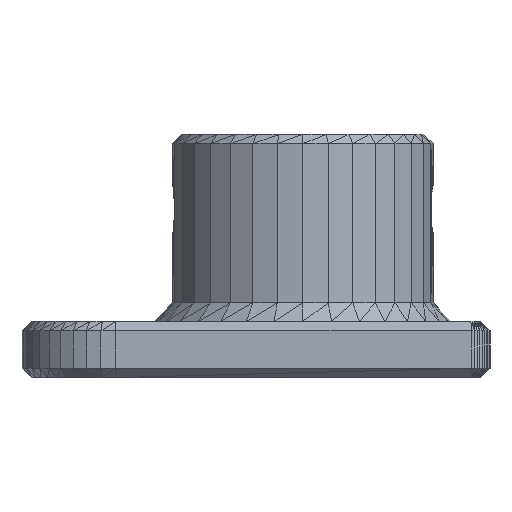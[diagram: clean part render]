
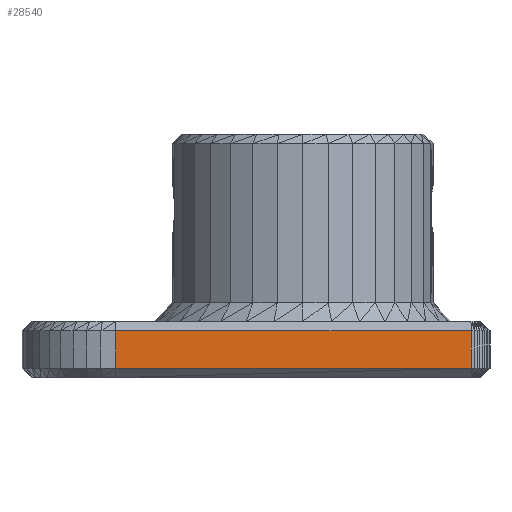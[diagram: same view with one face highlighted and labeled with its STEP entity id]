
A CAD part, front view. The second image highlights one B-rep face of the part: STEP entity #28540.
In plain terms, the highlighted planar face has unit normal (0, -1, 0).
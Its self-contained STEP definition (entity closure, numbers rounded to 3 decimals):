
#4961 = PLANE('',#4962);
#4962 = AXIS2_PLACEMENT_3D('',#4963,#4964,#4965);
#4963 = CARTESIAN_POINT('',(2.169,-9.878,
    2.627));
#4964 = DIRECTION('',(0.,-0.707,0.707));
#4965 = DIRECTION('',(0.,0.707,0.707));
#28328 = PLANE('',#28329);
#28329 = AXIS2_PLACEMENT_3D('',#28330,#28331,#28332);
#28330 = CARTESIAN_POINT('',(-8.055,-9.962,
    1.344));
#28331 = DIRECTION('',(-0.078,-0.997,-0.));
#28332 = DIRECTION('',(-0.997,0.078,0.));
#28415 = VERTEX_POINT('',#28416);
#28416 = CARTESIAN_POINT('',(-7.505,-10.005,
    0.507));
#28442 = EDGE_CURVE('',#28443,#28415,#28445,.T.);
#28443 = VERTEX_POINT('',#28444);
#28444 = CARTESIAN_POINT('',(-7.505,-10.005,
    2.5));
#28445 = SURFACE_CURVE('',#28446,(#28450,#28457),.PCURVE_S1.);
#28446 = LINE('',#28447,#28448);
#28447 = CARTESIAN_POINT('',(-7.505,-10.005,
    2.5));
#28448 = VECTOR('',#28449,1.);
#28449 = DIRECTION('',(0.,0.,-1.));
#28450 = PCURVE('',#28328,#28451);
#28451 = DEFINITIONAL_REPRESENTATION('',(#28452),#28456);
#28452 = LINE('',#28453,#28454);
#28453 = CARTESIAN_POINT('',(-0.551,-1.156));
#28454 = VECTOR('',#28455,1.);
#28455 = DIRECTION('',(0.,1.));
#28456 = ( GEOMETRIC_REPRESENTATION_CONTEXT(2) 
PARAMETRIC_REPRESENTATION_CONTEXT() REPRESENTATION_CONTEXT('2D SPACE',''
  ) );
#28457 = PCURVE('',#28458,#28463);
#28458 = PLANE('',#28459);
#28459 = AXIS2_PLACEMENT_3D('',#28460,#28461,#28462);
#28460 = CARTESIAN_POINT('',(1.528,-10.005,
    1.976));
#28461 = DIRECTION('',(-0.,-1.,-0.));
#28462 = DIRECTION('',(0.,0.,-1.));
#28463 = DEFINITIONAL_REPRESENTATION('',(#28464),#28468);
#28464 = LINE('',#28465,#28466);
#28465 = CARTESIAN_POINT('',(-0.524,-9.033));
#28466 = VECTOR('',#28467,1.);
#28467 = DIRECTION('',(1.,0.));
#28468 = ( GEOMETRIC_REPRESENTATION_CONTEXT(2) 
PARAMETRIC_REPRESENTATION_CONTEXT() REPRESENTATION_CONTEXT('2D SPACE',''
  ) );
#28540 = ADVANCED_FACE('',(#28541),#28458,.T.);
#28541 = FACE_BOUND('',#28542,.T.);
#28542 = EDGE_LOOP('',(#28543,#28566,#28567,#28595));
#28543 = ORIENTED_EDGE('',*,*,#28544,.F.);
#28544 = EDGE_CURVE('',#28443,#28545,#28547,.T.);
#28545 = VERTEX_POINT('',#28546);
#28546 = CARTESIAN_POINT('',(11.505,-10.005,
    2.5));
#28547 = SURFACE_CURVE('',#28548,(#28552,#28559),.PCURVE_S1.);
#28548 = LINE('',#28549,#28550);
#28549 = CARTESIAN_POINT('',(-7.505,-10.005,
    2.5));
#28550 = VECTOR('',#28551,1.);
#28551 = DIRECTION('',(1.,0.,0.));
#28552 = PCURVE('',#28458,#28553);
#28553 = DEFINITIONAL_REPRESENTATION('',(#28554),#28558);
#28554 = LINE('',#28555,#28556);
#28555 = CARTESIAN_POINT('',(-0.524,-9.033));
#28556 = VECTOR('',#28557,1.);
#28557 = DIRECTION('',(0.,1.));
#28558 = ( GEOMETRIC_REPRESENTATION_CONTEXT(2) 
PARAMETRIC_REPRESENTATION_CONTEXT() REPRESENTATION_CONTEXT('2D SPACE',''
  ) );
#28559 = PCURVE('',#4961,#28560);
#28560 = DEFINITIONAL_REPRESENTATION('',(#28561),#28565);
#28561 = LINE('',#28562,#28563);
#28562 = CARTESIAN_POINT('',(-0.18,9.674));
#28563 = VECTOR('',#28564,1.);
#28564 = DIRECTION('',(0.,-1.));
#28565 = ( GEOMETRIC_REPRESENTATION_CONTEXT(2) 
PARAMETRIC_REPRESENTATION_CONTEXT() REPRESENTATION_CONTEXT('2D SPACE',''
  ) );
#28566 = ORIENTED_EDGE('',*,*,#28442,.T.);
#28567 = ORIENTED_EDGE('',*,*,#28568,.F.);
#28568 = EDGE_CURVE('',#28569,#28415,#28571,.T.);
#28569 = VERTEX_POINT('',#28570);
#28570 = CARTESIAN_POINT('',(11.505,-10.005,
    0.506));
#28571 = SURFACE_CURVE('',#28572,(#28576,#28583),.PCURVE_S1.);
#28572 = LINE('',#28573,#28574);
#28573 = CARTESIAN_POINT('',(11.505,-10.005,
    0.506));
#28574 = VECTOR('',#28575,1.);
#28575 = DIRECTION('',(-1.,0.,0.));
#28576 = PCURVE('',#28458,#28577);
#28577 = DEFINITIONAL_REPRESENTATION('',(#28578),#28582);
#28578 = LINE('',#28579,#28580);
#28579 = CARTESIAN_POINT('',(1.47,9.977));
#28580 = VECTOR('',#28581,1.);
#28581 = DIRECTION('',(0.,-1.));
#28582 = ( GEOMETRIC_REPRESENTATION_CONTEXT(2) 
PARAMETRIC_REPRESENTATION_CONTEXT() REPRESENTATION_CONTEXT('2D SPACE',''
  ) );
#28583 = PCURVE('',#28584,#28589);
#28584 = PLANE('',#28585);
#28585 = AXIS2_PLACEMENT_3D('',#28586,#28587,#28588);
#28586 = CARTESIAN_POINT('',(1.82,-9.869,
    0.377));
#28587 = DIRECTION('',(0.,-0.689,-0.724
    ));
#28588 = DIRECTION('',(0.,-0.724,0.689
    ));
#28589 = DEFINITIONAL_REPRESENTATION('',(#28590),#28594);
#28590 = LINE('',#28591,#28592);
#28591 = CARTESIAN_POINT('',(0.187,-9.685));
#28592 = VECTOR('',#28593,1.);
#28593 = DIRECTION('',(0.,1.));
#28594 = ( GEOMETRIC_REPRESENTATION_CONTEXT(2) 
PARAMETRIC_REPRESENTATION_CONTEXT() REPRESENTATION_CONTEXT('2D SPACE',''
  ) );
#28595 = ORIENTED_EDGE('',*,*,#28596,.T.);
#28596 = EDGE_CURVE('',#28569,#28545,#28597,.T.);
#28597 = SURFACE_CURVE('',#28598,(#28602,#28609),.PCURVE_S1.);
#28598 = LINE('',#28599,#28600);
#28599 = CARTESIAN_POINT('',(11.505,-10.005,
    0.506));
#28600 = VECTOR('',#28601,1.);
#28601 = DIRECTION('',(0.,0.,1.));
#28602 = PCURVE('',#28458,#28603);
#28603 = DEFINITIONAL_REPRESENTATION('',(#28604),#28608);
#28604 = LINE('',#28605,#28606);
#28605 = CARTESIAN_POINT('',(1.47,9.977));
#28606 = VECTOR('',#28607,1.);
#28607 = DIRECTION('',(-1.,0.));
#28608 = ( GEOMETRIC_REPRESENTATION_CONTEXT(2) 
PARAMETRIC_REPRESENTATION_CONTEXT() REPRESENTATION_CONTEXT('2D SPACE',''
  ) );
#28609 = PCURVE('',#28610,#28615);
#28610 = PLANE('',#28611);
#28611 = AXIS2_PLACEMENT_3D('',#28612,#28613,#28614);
#28612 = CARTESIAN_POINT('',(11.546,-10.002,
    1.465));
#28613 = DIRECTION('',(0.078,-0.997,-0.));
#28614 = DIRECTION('',(-0.997,-0.078,0.));
#28615 = DEFINITIONAL_REPRESENTATION('',(#28616),#28620);
#28616 = LINE('',#28617,#28618);
#28617 = CARTESIAN_POINT('',(0.041,0.959));
#28618 = VECTOR('',#28619,1.);
#28619 = DIRECTION('',(0.,-1.));
#28620 = ( GEOMETRIC_REPRESENTATION_CONTEXT(2) 
PARAMETRIC_REPRESENTATION_CONTEXT() REPRESENTATION_CONTEXT('2D SPACE',''
  ) );
